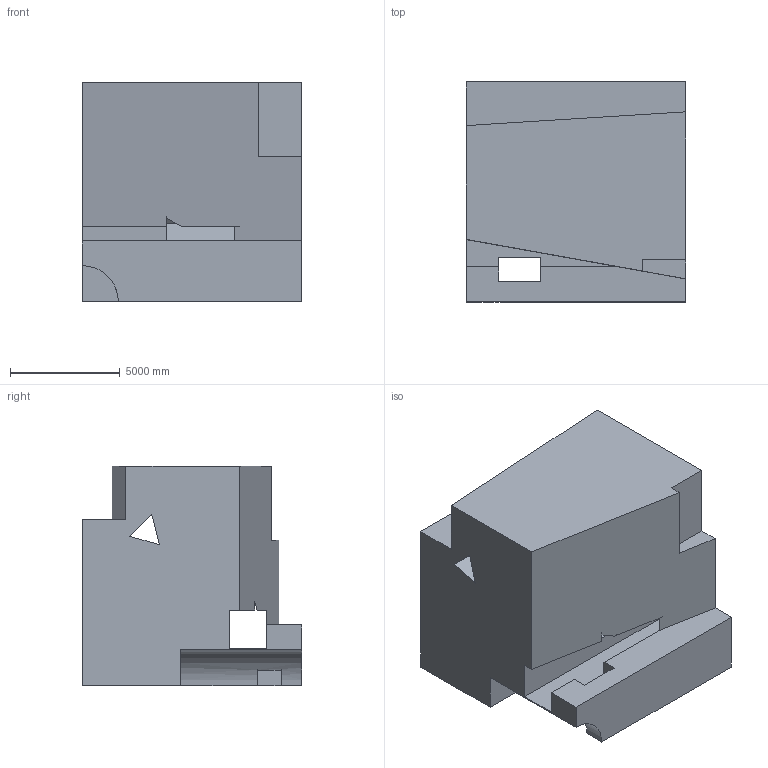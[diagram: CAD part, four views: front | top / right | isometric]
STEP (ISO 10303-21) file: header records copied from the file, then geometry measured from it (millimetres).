
FILE_DESCRIPTION (( 'STEP AP203' ), '1' );
FILE_NAME ('702.STEP', '2022-07-29T12:37:22', ( 'user' ), ( '' ), 'SwSTEP 2.0', 'SolidWorks 2021', '' );
FILE_SCHEMA (( 'CONFIG_CONTROL_DESIGN' ));
Length unit declared in the file: centimetre
Products named in the file (1): 702
Bounding box: 10000 x 10000 x 10000 mm (x, y, z)
Volume: 749933135653.1 mm3; surface area: 666157786.6 mm2
Topology: 1 solids, 1 shells, 34 faces, 105 edges, 70 vertices
Faces by surface type: plane 33, cylinder 1
Entity records: 1242 total; most frequent: ORIENTED_EDGE 210, CARTESIAN_POINT 210, DIRECTION 179, EDGE_CURVE 105, LINE 101, VECTOR 101, VERTEX_POINT 70, AXIS2_PLACEMENT_3D 39
